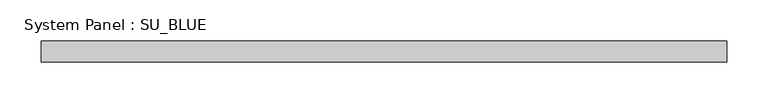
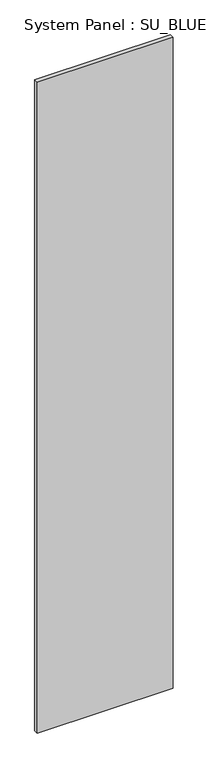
"""IFC4 building model written with IfcOpenShell, lengths in millimetres: plate geometry, System Panel : SU_BLUE."""

from ifc_helpers import new_model, si_unit, origin, origin_with_axes, place, context, project, spatial, polyline, outline, extrude, source, transform, mapped, element, save


def system_panel_su_blue_04be1b57(model_context):
    return source(origin(), model_context, "Body", "SweptSolid", [
        extrude(outline(polyline([(415.3596123, 19.05), (-415.3596123, 19.05), (-415.3596123, 44.45), (415.3596123, 44.45), (415.3596123, 19.05)])), origin_with_axes(), (0.0, 0.0, 1.0), 4203.7),
    ])


if __name__ == "__main__":
    model = new_model("IFC4")
    model_context = context("Model", 3, world=origin())
    ifc_project = project(units=[si_unit("LENGTHUNIT", "METRE", prefix="MILLI")], contexts=[model_context])
    site = spatial("IfcSite", under=ifc_project)
    building = spatial("IfcBuilding", under=site)
    placement = place(None, origin())
    system_panel_su_blue_shape = system_panel_su_blue_04be1b57(model_context)
    element("IfcPlate", 1, ObjectType="System Panel : SU_BLUE", at=placement, inside=building, context=model_context, shape_type="MappedRepresentation", body=[
        mapped(system_panel_su_blue_shape, transform((0.0, 0.0, 0.0), x_axis=(1.0, 0.0, 0.0), y_axis=(0.0, 1.0, 0.0), z_axis=(0.0, 0.0, 1.0))),
    ])
    save(model, "model.ifc")
